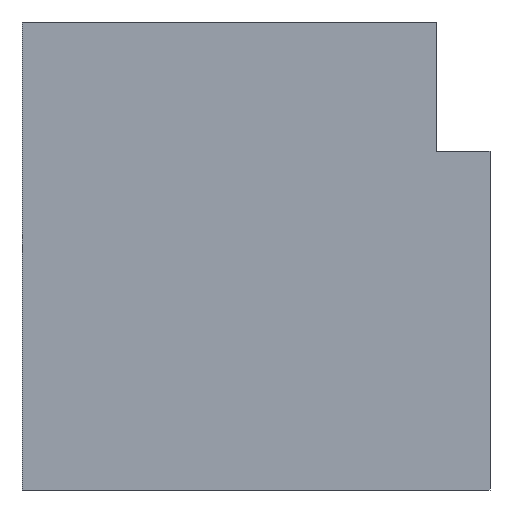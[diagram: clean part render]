
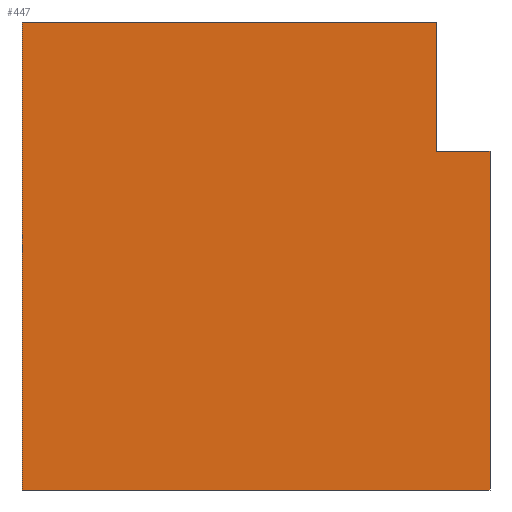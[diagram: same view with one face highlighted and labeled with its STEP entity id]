
A CAD part, front view. The second image highlights one B-rep face of the part: STEP entity #447.
In plain terms, the highlighted planar face has unit normal (0, -1, 0).
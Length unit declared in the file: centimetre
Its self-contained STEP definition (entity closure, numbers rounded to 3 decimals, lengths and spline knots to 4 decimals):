
#2 = EDGE_CURVE ( 'NONE', #582, #53, #97, .T. ) ;
#19 = EDGE_CURVE ( 'NONE', #116, #454, #248, .T. ) ;
#40 = CARTESIAN_POINT ( 'NONE',  ( 885.3274, 0., 724.2669 ) ) ;
#53 = VERTEX_POINT ( 'NONE', #567 ) ;
#67 = VECTOR ( 'NONE', #563, 100. ) ;
#97 = LINE ( 'NONE', #632, #457 ) ;
#105 = DIRECTION ( 'NONE',  ( 0., 0., 1. ) ) ;
#116 = VERTEX_POINT ( 'NONE', #451 ) ;
#157 = CARTESIAN_POINT ( 'NONE',  ( 1000., 0., 1000. ) ) ;
#177 = CARTESIAN_POINT ( 'NONE',  ( 0., 0., 0. ) ) ;
#213 = CARTESIAN_POINT ( 'NONE',  ( 1000., 0., 0. ) ) ;
#224 = CARTESIAN_POINT ( 'NONE',  ( 1000., 0., 724.2669 ) ) ;
#226 = CARTESIAN_POINT ( 'NONE',  ( 0., 0., 1000. ) ) ;
#248 = LINE ( 'NONE', #643, #430 ) ;
#252 = DIRECTION ( 'NONE',  ( 0., 0., -1. ) ) ;
#269 = EDGE_CURVE ( 'NONE', #357, #680, #684, .T. ) ;
#284 = LINE ( 'NONE', #226, #648 ) ;
#313 = DIRECTION ( 'NONE',  ( 0., 0., -1. ) ) ;
#346 = ORIENTED_EDGE ( 'NONE', *, *, #2, .T. ) ;
#357 = VERTEX_POINT ( 'NONE', #224 ) ;
#363 = ORIENTED_EDGE ( 'NONE', *, *, #594, .F. ) ;
#368 = CARTESIAN_POINT ( 'NONE',  ( 885.3274, 0., 724.2669 ) ) ;
#377 = EDGE_CURVE ( 'NONE', #53, #680, #494, .T. ) ;
#420 = ORIENTED_EDGE ( 'NONE', *, *, #269, .F. ) ;
#427 = ORIENTED_EDGE ( 'NONE', *, *, #19, .F. ) ;
#428 = CARTESIAN_POINT ( 'NONE',  ( 0., 0., 1000. ) ) ;
#430 = VECTOR ( 'NONE', #252, 100. ) ;
#447 = ADVANCED_FACE ( 'NONE', ( #633 ), #838, .F. ) ;
#451 = CARTESIAN_POINT ( 'NONE',  ( 885.3274, 0., 1000. ) ) ;
#454 = VERTEX_POINT ( 'NONE', #368 ) ;
#457 = VECTOR ( 'NONE', #313, 100. ) ;
#468 = CARTESIAN_POINT ( 'NONE',  ( 0., 0., 1000. ) ) ;
#483 = DIRECTION ( 'NONE',  ( 1., 0., 0. ) ) ;
#492 = LINE ( 'NONE', #40, #67 ) ;
#494 = LINE ( 'NONE', #177, #609 ) ;
#510 = VECTOR ( 'NONE', #747, 100. ) ;
#551 = DIRECTION ( 'NONE',  ( 1., 0., 0. ) ) ;
#563 = DIRECTION ( 'NONE',  ( 1., 0., 0. ) ) ;
#567 = CARTESIAN_POINT ( 'NONE',  ( 0., 0., 0. ) ) ;
#582 = VERTEX_POINT ( 'NONE', #468 ) ;
#586 = AXIS2_PLACEMENT_3D ( 'NONE', #428, #704, #105 ) ;
#594 = EDGE_CURVE ( 'NONE', #454, #357, #492, .T. ) ;
#609 = VECTOR ( 'NONE', #483, 100. ) ;
#632 = CARTESIAN_POINT ( 'NONE',  ( 0., 0., 1000. ) ) ;
#633 = FACE_OUTER_BOUND ( 'NONE', #763, .T. ) ;
#643 = CARTESIAN_POINT ( 'NONE',  ( 885.3274, 0., 724.2669 ) ) ;
#648 = VECTOR ( 'NONE', #551, 100. ) ;
#675 = EDGE_CURVE ( 'NONE', #582, #116, #284, .T. ) ;
#680 = VERTEX_POINT ( 'NONE', #213 ) ;
#684 = LINE ( 'NONE', #157, #510 ) ;
#690 = ORIENTED_EDGE ( 'NONE', *, *, #675, .F. ) ;
#704 = DIRECTION ( 'NONE',  ( 0., 1., 0. ) ) ;
#747 = DIRECTION ( 'NONE',  ( 0., 0., -1. ) ) ;
#763 = EDGE_LOOP ( 'NONE', ( #363, #427, #690, #346, #794, #420 ) ) ;
#794 = ORIENTED_EDGE ( 'NONE', *, *, #377, .T. ) ;
#838 = PLANE ( 'NONE',  #586 ) ;
